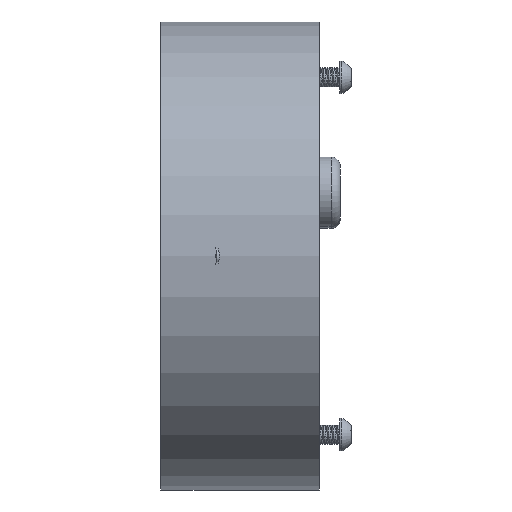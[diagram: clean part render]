
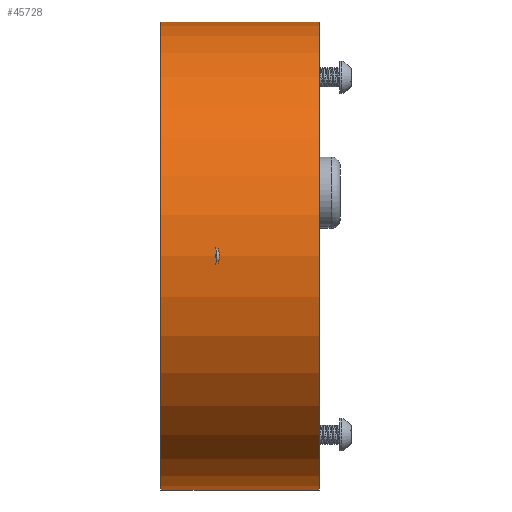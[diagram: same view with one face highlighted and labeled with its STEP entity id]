
A CAD part, left-side view. The second image highlights one B-rep face of the part: STEP entity #45728.
In plain terms, the highlighted cylindrical face has radius 49.911 mm (diameter 99.822 mm), a partial arc.
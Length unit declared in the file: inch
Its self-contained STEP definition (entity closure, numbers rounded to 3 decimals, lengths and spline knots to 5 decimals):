
#3279 = DIRECTION ( 'NONE',  ( 0., 1., 0. ) ) ;
#3662 = AXIS2_PLACEMENT_3D ( 'NONE', #6500, #17369, #42195 ) ;
#4125 = DIRECTION ( 'NONE',  ( 0., -1., 0. ) ) ;
#4442 = DIRECTION ( 'NONE',  ( 0., 0., -1. ) ) ;
#4482 = CYLINDRICAL_SURFACE ( 'NONE', #7183, 1.965 ) ;
#5195 = EDGE_CURVE ( 'NONE', #35178, #38951, #44313, .T. ) ;
#6025 = DIRECTION ( 'NONE',  ( 0., -1., 0. ) ) ;
#6500 = CARTESIAN_POINT ( 'NONE',  ( 0., 1.33, 0. ) ) ;
#7183 = AXIS2_PLACEMENT_3D ( 'NONE', #18751, #4125, #4442 ) ;
#9447 = CARTESIAN_POINT ( 'NONE',  ( 0., 1.33, -1.965 ) ) ;
#10633 = ORIENTED_EDGE ( 'NONE', *, *, #10905, .F. ) ;
#10905 = EDGE_CURVE ( 'NONE', #12927, #25445, #41816, .T. ) ;
#12927 = VERTEX_POINT ( 'NONE', #28004 ) ;
#13407 = DIRECTION ( 'NONE',  ( 0., -1., 0. ) ) ;
#14042 = CARTESIAN_POINT ( 'NONE',  ( 0., 0., 0. ) ) ;
#15709 = CARTESIAN_POINT ( 'NONE',  ( 0., 0., -1.965 ) ) ;
#17369 = DIRECTION ( 'NONE',  ( 0., 1., 0. ) ) ;
#18751 = CARTESIAN_POINT ( 'NONE',  ( 0., 1.33, 0. ) ) ;
#20231 = ORIENTED_EDGE ( 'NONE', *, *, #31290, .F. ) ;
#24348 = CARTESIAN_POINT ( 'NONE',  ( 0., 1.33, -1.965 ) ) ;
#25445 = VERTEX_POINT ( 'NONE', #38967 ) ;
#26345 = VECTOR ( 'NONE', #13407, 39.37008 ) ;
#26414 = ORIENTED_EDGE ( 'NONE', *, *, #5195, .T. ) ;
#27412 = CIRCLE ( 'NONE', #44686, 1.965 ) ;
#27606 = CARTESIAN_POINT ( 'NONE',  ( 0., 1.33, 1.965 ) ) ;
#27782 = VECTOR ( 'NONE', #6025, 39.37008 ) ;
#28004 = CARTESIAN_POINT ( 'NONE',  ( 0., 1.33, 1.965 ) ) ;
#28495 = DIRECTION ( 'NONE',  ( 0., 0., 1. ) ) ;
#31290 = EDGE_CURVE ( 'NONE', #35178, #12927, #45609, .T. ) ;
#32573 = EDGE_CURVE ( 'NONE', #38951, #25445, #27412, .T. ) ;
#35178 = VERTEX_POINT ( 'NONE', #9447 ) ;
#38834 = FACE_OUTER_BOUND ( 'NONE', #41415, .T. ) ;
#38951 = VERTEX_POINT ( 'NONE', #15709 ) ;
#38967 = CARTESIAN_POINT ( 'NONE',  ( 0., 0., 1.965 ) ) ;
#41415 = EDGE_LOOP ( 'NONE', ( #10633, #20231, #26414, #45833 ) ) ;
#41816 = LINE ( 'NONE', #27606, #27782 ) ;
#42195 = DIRECTION ( 'NONE',  ( 0., 0., 1. ) ) ;
#44313 = LINE ( 'NONE', #24348, #26345 ) ;
#44686 = AXIS2_PLACEMENT_3D ( 'NONE', #14042, #3279, #28495 ) ;
#45609 = CIRCLE ( 'NONE', #3662, 1.965 ) ;
#45728 = ADVANCED_FACE ( 'NONE', ( #38834 ), #4482, .T. ) ;
#45833 = ORIENTED_EDGE ( 'NONE', *, *, #32573, .T. ) ;
